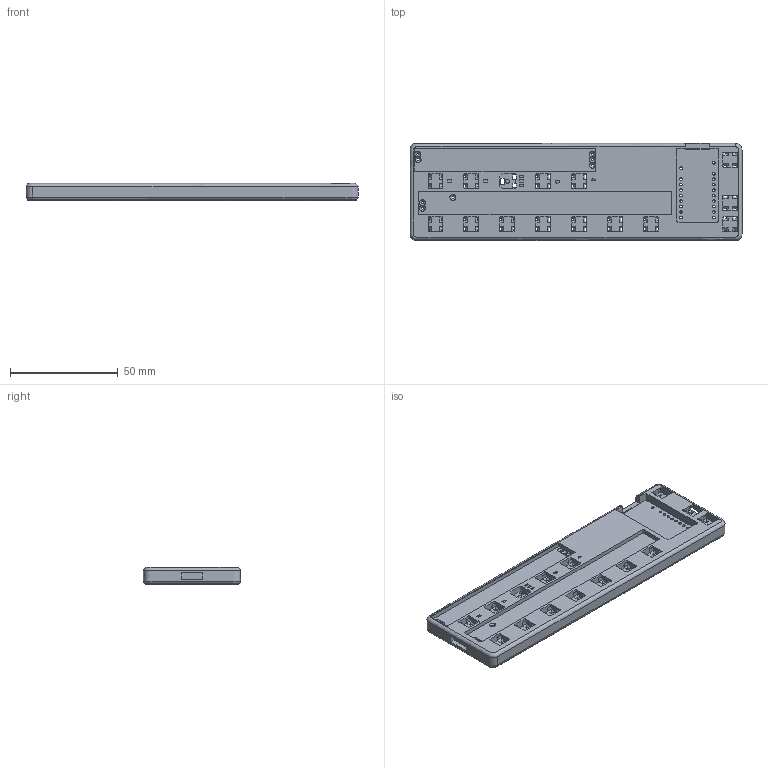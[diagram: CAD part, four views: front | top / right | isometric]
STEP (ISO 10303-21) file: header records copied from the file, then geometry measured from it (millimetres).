
FILE_DESCRIPTION(/* description */ (''),/* implementation_level */ '2;1');
FILE_NAME(/* name */ 'leet_chord',/* time_stamp */ '2020-11-03T22:16:09+01:00',/* author */ (''),/* organization */ (''),/* preprocessor_version */ 'ST-DEVELOPER v10',/* originating_system */ '',/* authorisation */ '');
FILE_SCHEMA (('CONFIG_CONTROL_DESIGN'));
Length unit declared in the file: millimetre
Products named in the file (1): 1
Bounding box: 154 x 45 x 8 mm (x, y, z)
Volume: 36157.4 mm3; surface area: 25578.8 mm2
Topology: 1 solids, 1 shells, 1601 faces, 4340 edges, 2673 vertices
Faces by surface type: plane 1210, bspline 391
Entity records: 74064 total; most frequent: CARTESIAN_POINT 45579, ORIENTED_EDGE 8680, EDGE_CURVE 4340, B_SPLINE_CURVE_WITH_KNOTS 3819, VERTEX_POINT 2673, EDGE_LOOP 1719, ADVANCED_FACE 1601, FACE_OUTER_BOUND 1601
